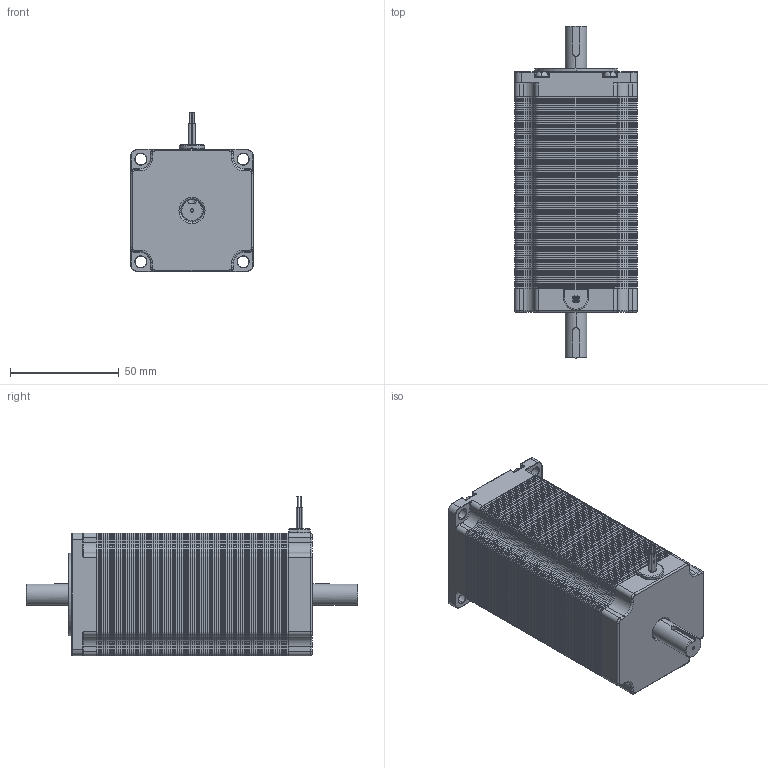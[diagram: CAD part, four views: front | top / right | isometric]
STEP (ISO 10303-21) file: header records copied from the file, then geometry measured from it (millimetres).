
FILE_DESCRIPTION (( 'STEP AP214' ), '1' );
FILE_NAME ('Nema 23 Stepper Motor length 112mm_10mm_key_DS.STEP', '2020-11-11T14:02:56', ( 'Moofasta' ), ( '' ), 'SwSTEP 2.0', 'SolidWorks 2020', '' );
FILE_SCHEMA (( 'AUTOMOTIVE_DESIGN' ));
Length unit declared in the file: millimetre
Products named in the file (1): Nema 23 Stepper Motor length 112mm_10mm_key_DS
Bounding box: 56.3 x 152.5 x 73.3 mm (x, y, z)
Volume: 320557.5 mm3; surface area: 537775.2 mm2
Topology: 104 solids, 104 shells, 6995 faces, 15900 edges, 9099 vertices
Faces by surface type: plane 3520, cone 2139, cylinder 1222, torus 94, sphere 12, bspline 8
Entity records: 264949 total; most frequent: DIRECTION 34501, CARTESIAN_POINT 32487, ORIENTED_EDGE 31760, EDGE_CURVE 15880, AXIS2_PLACEMENT_3D 11713, VECTOR 11075, LINE 11075, VERTEX_POINT 9099
